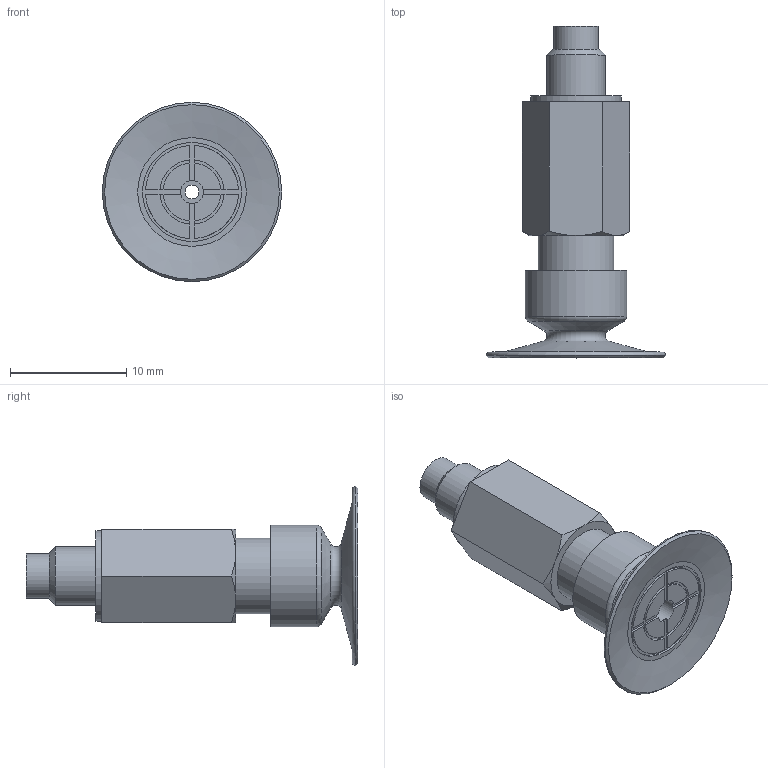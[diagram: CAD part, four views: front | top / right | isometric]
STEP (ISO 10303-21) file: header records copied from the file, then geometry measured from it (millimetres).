
FILE_DESCRIPTION(('STEP AP214'),'1');
FILE_NAME('.stp','2024-08-12T00:54:46',(' '),(' '),'Spatial InterOp 3D',' ',' ');
FILE_SCHEMA(('AUTOMOTIVE_DESIGN { 1 0 10303 214 1 1 1 1 }'));
Length unit declared in the file: millimetre
Products named in the file (4): BPSS-L3-BPAG-15B-※; BPSS-10A-L3-M; BPSS-10A-L3-F; BPAG-15B-※
Assembly tree (3 placements, depth 2):
  BPSS-L3-BPAG-15B-※
    BPSS-10A-L3-M
    BPSS-10A-L3-F
    BPAG-15B-※
Bounding box: 15.4 x 28.5 x 15.4 mm (x, y, z)
Volume: 1121.8 mm3; surface area: 1977.1 mm2
Topology: 3 solids, 3 shells, 97 faces, 214 edges, 133 vertices
Faces by surface type: plane 42, cylinder 28, cone 20, torus 7
Full cylindrical faces by diameter (mm): 1.2 x1, 2 x1, 2.4 x2, 3.4 x1, 3.8 x1, 4 x2, 5 x1, 6 x2, 6.5 x2, 7.8 x1, 8.5 x1, 8.7 x1
Entity records: 3640 total; most frequent: CARTESIAN_POINT 506, DIRECTION 430, ORIENTED_EDGE 354, AXIS2_PLACEMENT_3D 179, EDGE_CURVE 177, STYLED_ITEM 152, PRESENTATION_STYLE_ASSIGNMENT 152, COLOUR_RGB 152
